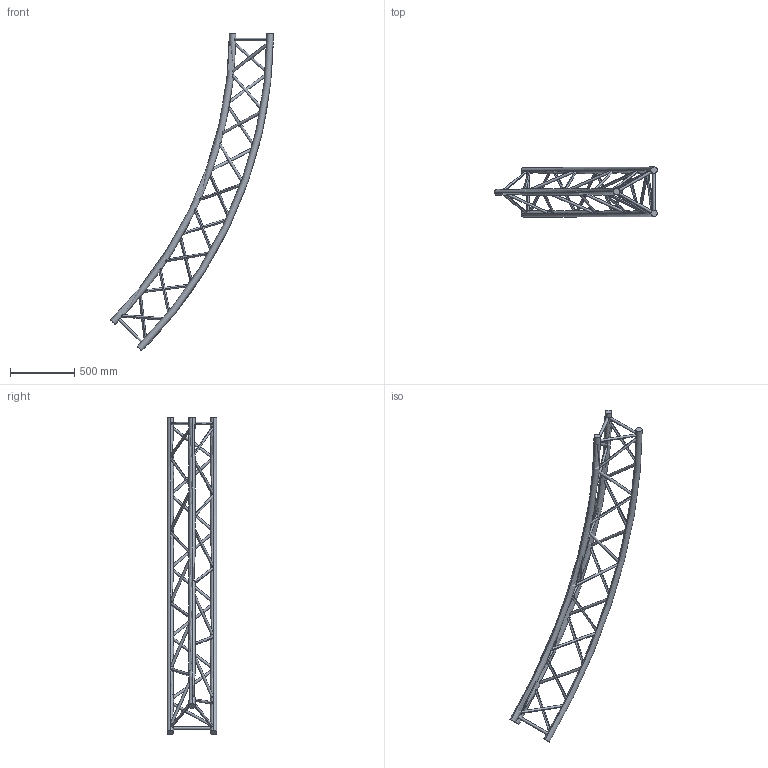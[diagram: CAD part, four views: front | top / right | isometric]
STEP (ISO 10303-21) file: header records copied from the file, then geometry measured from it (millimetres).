
FILE_DESCRIPTION (( 'STEP AP203' ), '1' );
FILE_NAME ('SXC39700PI.STEP', '2009-10-21T11:37:43', ( 'CEDIA' ), ( 'CEDIA INDUSTRIE' ), 'SwSTEP 2.0', 'SolidWorks 2009', '' );
FILE_SCHEMA (( 'CONFIG_CONTROL_DESIGN' ));
Length unit declared in the file: millimetre
Products named in the file (1): SXC39700PI
Bounding box: 1266.85 x 387 x 2474.87 mm (x, y, z)
Volume: 19298610.7 mm3; surface area: 1972814 mm2
Topology: 1 solids, 1 shells, 78 faces, 216 edges, 144 vertices
Faces by surface type: cylinder 66, torus 6, plane 6
Entity records: 8942 total; most frequent: CARTESIAN_POINT 6986, ORIENTED_EDGE 432, DIRECTION 260, EDGE_CURVE 216, EDGE_LOOP 144, VERTEX_POINT 144, B_SPLINE_CURVE_WITH_KNOTS 132, AXIS2_PLACEMENT_3D 97
